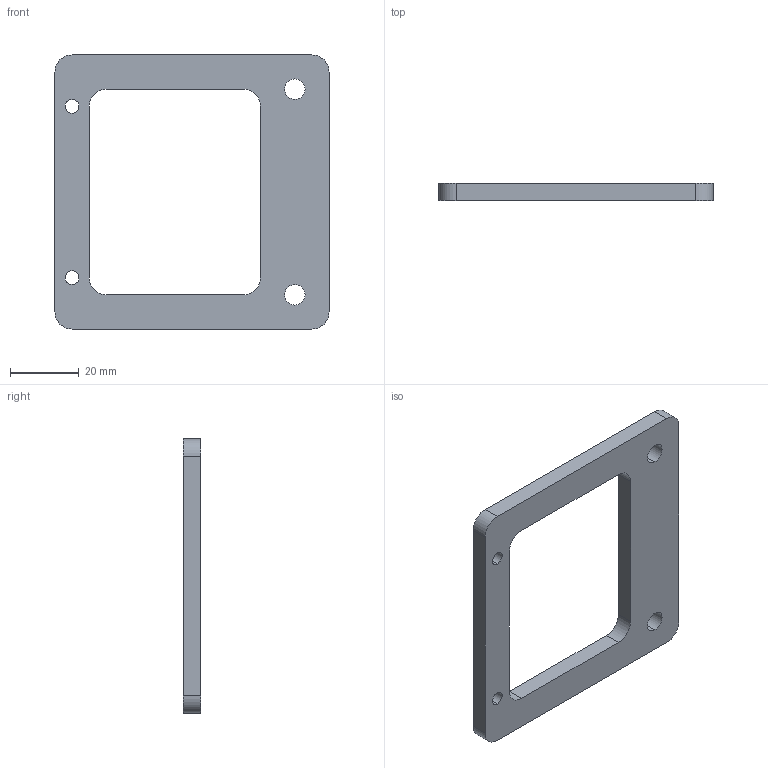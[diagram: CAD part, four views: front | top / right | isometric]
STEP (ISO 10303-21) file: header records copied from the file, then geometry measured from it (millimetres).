
FILE_DESCRIPTION (( 'STEP AP203' ), '1' );
FILE_NAME ('POWER SUPPLY MOUNTS.STEP', '2012-08-20T19:29:01', ( '' ), ( '' ), 'SwSTEP 2.0', 'SolidWorks 2012', '' );
FILE_SCHEMA (( 'CONFIG_CONTROL_DESIGN' ));
Length unit declared in the file: millimetre
Products named in the file (1): POWER SUPPLY MOUNTS
Bounding box: 80 x 5 x 80 mm (x, y, z)
Volume: 16591.6 mm3; surface area: 9565 mm2
Topology: 1 solids, 1 shells, 26 faces, 72 edges, 48 vertices
Faces by surface type: cylinder 16, plane 10
Entity records: 945 total; most frequent: DIRECTION 158, CARTESIAN_POINT 147, ORIENTED_EDGE 144, EDGE_CURVE 72, AXIS2_PLACEMENT_3D 59, VERTEX_POINT 48, LINE 40, VECTOR 40
